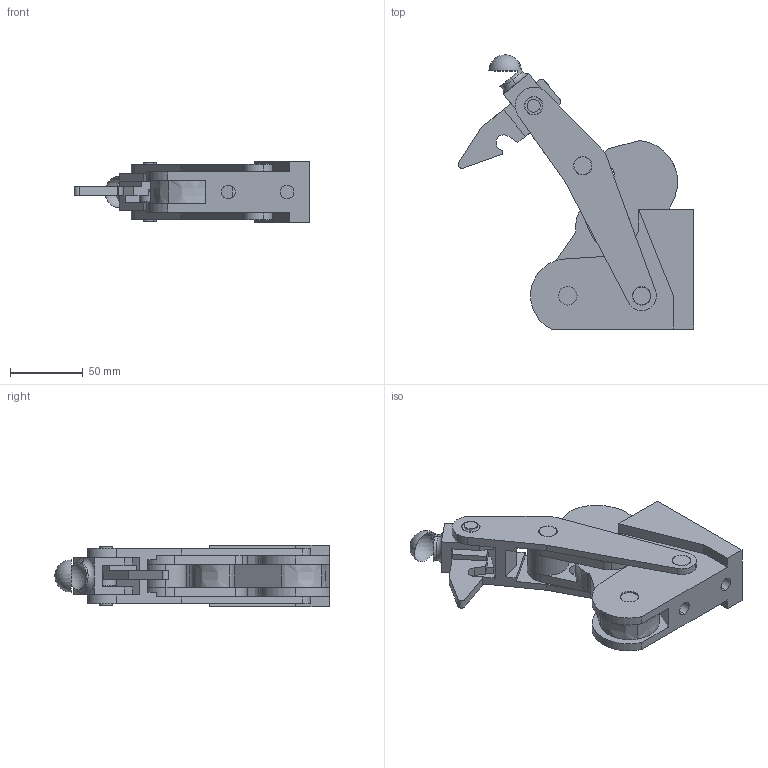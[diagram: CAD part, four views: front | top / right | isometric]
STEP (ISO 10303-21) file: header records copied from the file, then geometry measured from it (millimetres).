
FILE_DESCRIPTION( ( '' ), '1' );
FILE_NAME( 'C:\Documents and Settings\Richard Grenzke\My Documents\Wolverine Company Data\WOLVERINE CD 5_17_05\SOLIDS STEP\heavy_duty_compact\lyt1036.stp', ' ', ( '' ), ( '' ), 'ACIS Interop R16', 'Kubotek KeyCreator V5.5.1 (0454)', ' ' );
FILE_SCHEMA( ( 'CONFIG_CONTROL_DESIGN' ) );
Length unit declared in the file: inch
Products named in the file (13): 1; 2; 3; 4; 5; 6; 7; 8; 9; 10; 11; 12; 13
Bounding box: 162.53 x 189 x 42.67 mm (x, y, z)
Volume: 354746.2 mm3; surface area: 112761.9 mm2
Topology: 12 solids, 12 shells, 241 faces, 674 edges, 456 vertices
Faces by surface type: plane 120, cylinder 104, bspline 9, torus 6, sphere 2
Entity records: 8848 total; most frequent: CARTESIAN_POINT 1819, DIRECTION 1387, ORIENTED_EDGE 1340, EDGE_CURVE 670, AXIS2_PLACEMENT_3D 510, VERTEX_POINT 456, LINE 367, VECTOR 367
